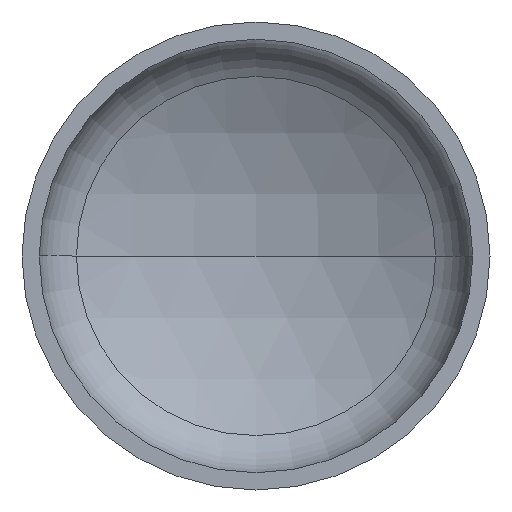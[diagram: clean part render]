
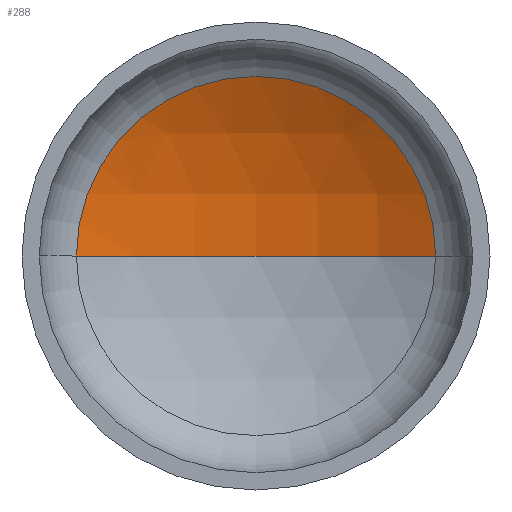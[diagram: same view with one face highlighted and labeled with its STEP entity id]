
A CAD part, front view. The second image highlights one B-rep face of the part: STEP entity #288.
In plain terms, the highlighted spherical face has radius 1520 mm.
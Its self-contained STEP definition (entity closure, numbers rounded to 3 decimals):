
#4 = ORIENTED_EDGE ( 'NONE', *, *, #196, .T. ) ;
#9 = EDGE_LOOP ( 'NONE', ( #40, #4, #17 ) ) ;
#17 = ORIENTED_EDGE ( 'NONE', *, *, #191, .T. ) ;
#29 = VERTEX_POINT ( 'NONE', #226 ) ;
#40 = ORIENTED_EDGE ( 'NONE', *, *, #199, .F. ) ;
#70 = VERTEX_POINT ( 'NONE', #227 ) ;
#91 = VERTEX_POINT ( 'NONE', #338 ) ;
#92 = DIRECTION ( 'NONE',  ( 1., 0., 0. ) ) ;
#98 = AXIS2_PLACEMENT_3D ( 'NONE', #123, #165, #151 ) ;
#120 = AXIS2_PLACEMENT_3D ( 'NONE', #220, #261, #259 ) ;
#123 = CARTESIAN_POINT ( 'NONE',  ( 0., -959.259, 0. ) ) ;
#124 = AXIS2_PLACEMENT_3D ( 'NONE', #192, #202, #204 ) ;
#128 = AXIS2_PLACEMENT_3D ( 'NONE', #349, #304, #92 ) ;
#148 = CIRCLE ( 'NONE', #128, 729.106 ) ;
#151 = DIRECTION ( 'NONE',  ( -1., 0., 0. ) ) ;
#165 = DIRECTION ( 'NONE',  ( 0., 0., -1. ) ) ;
#191 = EDGE_CURVE ( 'NONE', #70, #91, #148, .T. ) ;
#192 = CARTESIAN_POINT ( 'NONE',  ( 0., -959.259, 0. ) ) ;
#196 = EDGE_CURVE ( 'NONE', #29, #70, #404, .T. ) ;
#199 = EDGE_CURVE ( 'NONE', #29, #91, #346, .T. ) ;
#202 = DIRECTION ( 'NONE',  ( 0., 0., -1. ) ) ;
#204 = DIRECTION ( 'NONE',  ( -1., 0., 0. ) ) ;
#218 = SPHERICAL_SURFACE ( 'NONE', #98, 1520. ) ;
#220 = CARTESIAN_POINT ( 'NONE',  ( 0., -959.259, 0. ) ) ;
#226 = CARTESIAN_POINT ( 'NONE',  ( 0., 560.741, 0. ) ) ;
#227 = CARTESIAN_POINT ( 'NONE',  ( 729.106, 374.459, 0. ) ) ;
#259 = DIRECTION ( 'NONE',  ( 1., 0., 0. ) ) ;
#261 = DIRECTION ( 'NONE',  ( 0., 0., 1. ) ) ;
#288 = ADVANCED_FACE ( 'NONE', ( #336 ), #218, .F. ) ;
#304 = DIRECTION ( 'NONE',  ( 0., -1., 0. ) ) ;
#336 = FACE_OUTER_BOUND ( 'NONE', #9, .T. ) ;
#338 = CARTESIAN_POINT ( 'NONE',  ( -729.106, 374.459, 0. ) ) ;
#346 = CIRCLE ( 'NONE', #120, 1520. ) ;
#349 = CARTESIAN_POINT ( 'NONE',  ( 0., 374.459, 0. ) ) ;
#404 = CIRCLE ( 'NONE', #124, 1520. ) ;
